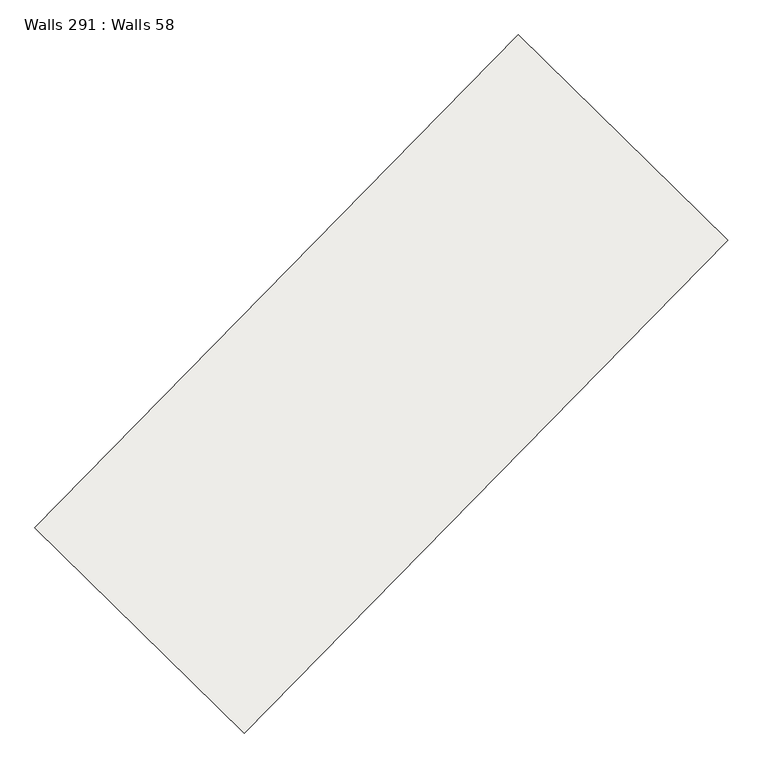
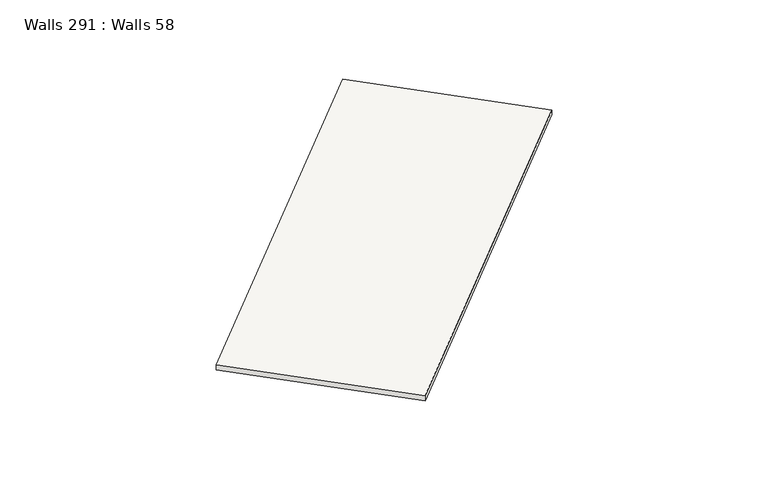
"""IFC4 building model written with IfcOpenShell, lengths in millimetres: slab geometry, Walls 291 : Walls 58."""

from ifc_helpers import new_model, si_unit, frame, origin, place, context, project, spatial, polyline, outline, extrude, source, transform, mapped, element, save


def walls_291_walls_58_cfdd0d13(model_context):
    return source(origin(), model_context, "Body", "SweptSolid", [
        extrude(outline(polyline([(-50.0, 0.0), (50.0, 0.0), (-40.0, -8700.0000009), (-140.0, -8700.0000009), (-50.0, 0.0)])), frame((-30418.2304958, -190341.6724319, 637600.0), z_axis=(-0.7137361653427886, 0.7004146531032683, 0.0), x_axis=(0.0, 0.0, 1.0)), (0.0, 0.0, 1.0), 3699.999995),
    ])


if __name__ == "__main__":
    model = new_model("IFC4")
    model_context = context("Model", 3, world=origin())
    ifc_project = project(units=[si_unit("LENGTHUNIT", "METRE", prefix="MILLI")], contexts=[model_context])
    site = spatial("IfcSite", under=ifc_project)
    building = spatial("IfcBuilding", under=site)
    placement = place(None, origin())
    walls_291_walls_58_shape = walls_291_walls_58_cfdd0d13(model_context)
    element("IfcSlab", 1, ObjectType="Walls 291 : Walls 58", at=placement, inside=building, context=model_context, shape_type="MappedRepresentation", body=[
        mapped(walls_291_walls_58_shape, transform((0.0, 0.0, 0.0), x_axis=(1.0, 0.0, 0.0), y_axis=(0.0, 1.0, 0.0), z_axis=(0.0, 0.0, 1.0))),
    ])
    save(model, "model.ifc")
